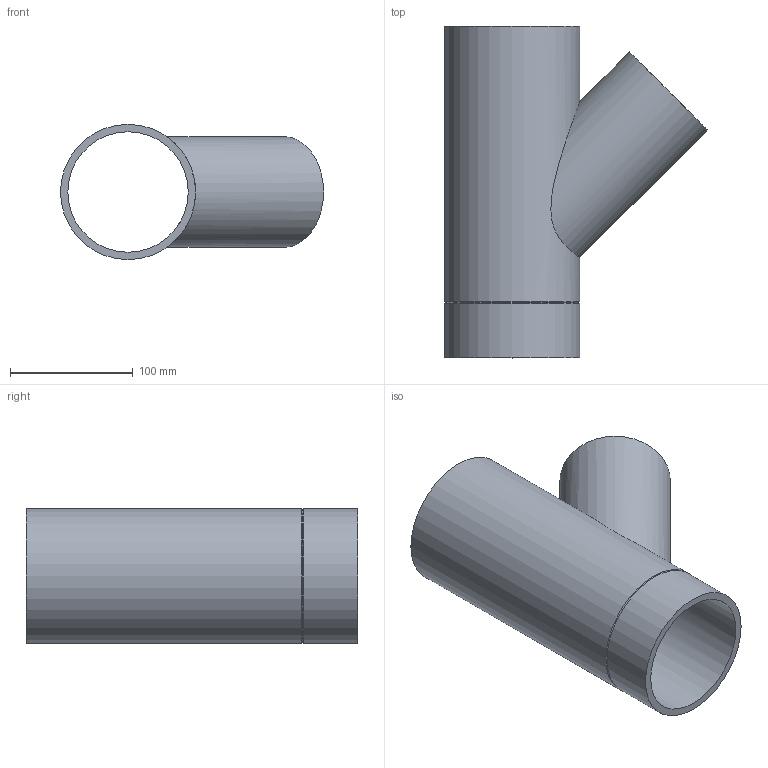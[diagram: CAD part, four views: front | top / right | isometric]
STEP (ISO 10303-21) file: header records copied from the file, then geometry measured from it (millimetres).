
FILE_DESCRIPTION(/* description */ (''),/* implementation_level */ '2;1');
FILE_NAME(/* name */ 'Z:\Geberit\Export\Export18\Abzweig Gerade_Ipart\stp\310084.stp',/* time_stamp */ '2014-08-26T21:52:07+02:00',/* author */ ('ML'),/* organization */ (''),/* preprocessor_version */ 'ST-DEVELOPER v15.2',/* originating_system */ 'Autodesk Inventor 2014',/* authorisation */ '');
FILE_SCHEMA (('AUTOMOTIVE_DESIGN { 1 0 10303 214 3 1 1 }'));
Length unit declared in the file: millimetre
Products named in the file (1): 310084
Bounding box: 214.1 x 270 x 110 mm (x, y, z)
Volume: 652550.1 mm3; surface area: 228462.7 mm2
Topology: 1 solids, 1 shells, 10 faces, 25 edges, 17 vertices
Faces by surface type: cylinder 5, plane 3, cone 2
Full cylindrical faces by diameter (mm): 79 x1, 90 x1, 98 x1, 110 x2
Entity records: 381 total; most frequent: CARTESIAN_POINT 177, DIRECTION 40, EDGE_LOOP 22, ORIENTED_EDGE 22, AXIS2_PLACEMENT_3D 20, FACE_BOUND 17, VERTEX_POINT 11, EDGE_CURVE 11
